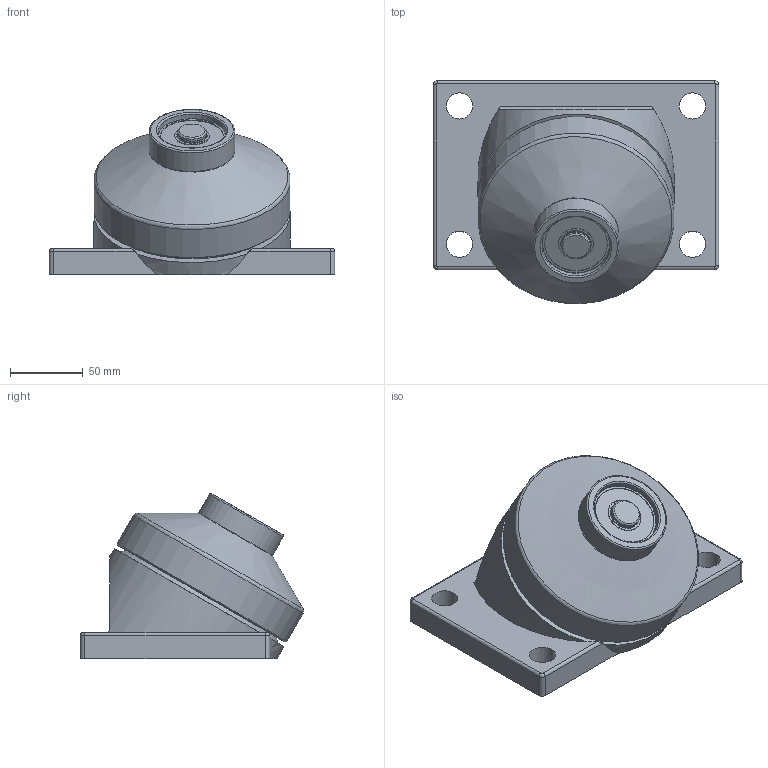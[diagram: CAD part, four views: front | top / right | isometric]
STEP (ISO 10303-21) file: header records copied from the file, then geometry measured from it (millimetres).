
FILE_DESCRIPTION(/* description */ (''),/* implementation_level */ '2;1');
FILE_NAME(/* name */ 'Z:\34-Tei\01-web 3Dデータ\SW車輪\SW-100-K.stp',/* time_stamp */ '2015-03-17T16:42:43+09:00',/* author */ ('yamaki'),/* organization */ (''),/* preprocessor_version */ 'ST-DEVELOPER v15.6',/* originating_system */ 'Autodesk Inventor 2015',/* authorisation */ '');
FILE_SCHEMA (('AUTOMOTIVE_DESIGN { 1 0 10303 214 3 1 1 }'));
Length unit declared in the file: centimetre
Products named in the file (1): SW-100-K
Bounding box: 196 x 153.23 x 113.45 mm (x, y, z)
Volume: 1003704.8 mm3; surface area: 153534.5 mm2
Topology: 1 solids, 2 shells, 105 faces, 218 edges, 138 vertices
Faces by surface type: cylinder 42, plane 33, cone 14, torus 10, bspline 6
Full cylindrical faces by diameter (mm): 3.5 x1, 8 x1, 18 x4, 19 x1, 20 x3, 24 x2, 26 x2, 32 x1, 35 x1, 40 x1, 43 x2, 47 x1, 47.1 x1, 50 x1, 58.79 x1, 65 x1, 100.1 x1, 108 x1, 109 x1, 135 x1
Entity records: 2872 total; most frequent: CARTESIAN_POINT 721, DIRECTION 453, ORIENTED_EDGE 300, AXIS2_PLACEMENT_3D 214, EDGE_LOOP 191, EDGE_CURVE 150, VERTEX_POINT 123, STYLED_ITEM 106
